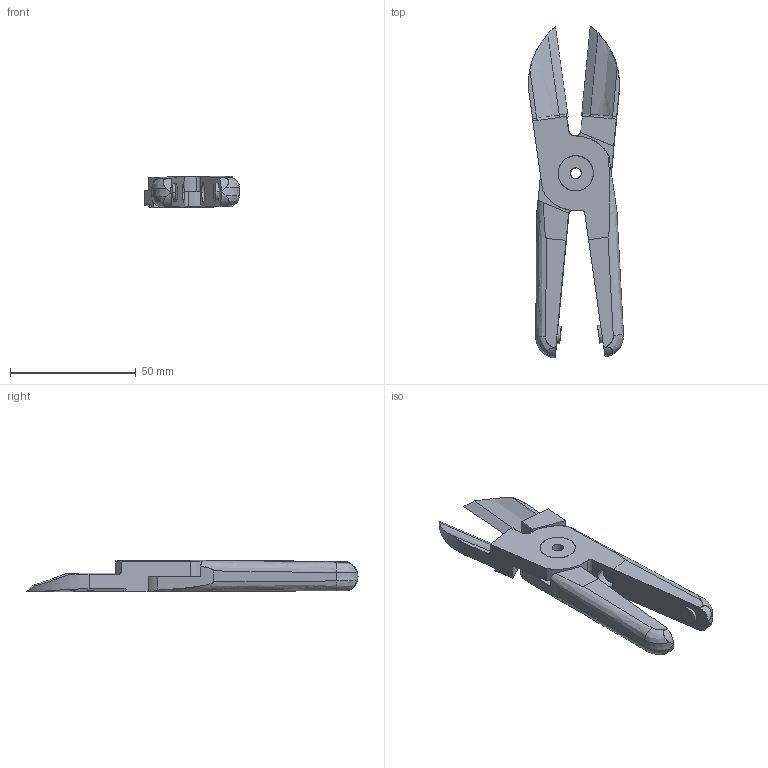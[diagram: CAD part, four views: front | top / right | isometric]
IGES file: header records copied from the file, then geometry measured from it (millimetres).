
Start section: SolidWorks IGES file using analytic representation for surfaces
Global section: file name: P:\DRAWINGS\SALES DWG FILE\Format (IGIS) 3D\N20AB39.IGS; native system: SolidWorks 2007; preprocessor: SolidWorks 2007; author: larry; date: 080108.153101; units: millimetre
Bounding box: 37.88 x 132.25 x 12.56 mm (x, y, z)
Surface area: 12796.7 mm2 (no closed solid volume)
Topology: 0 solids, 0 shells, 97 faces, 1378 edges, 1378 vertices
Faces by surface type: bspline 51, revolution 46
